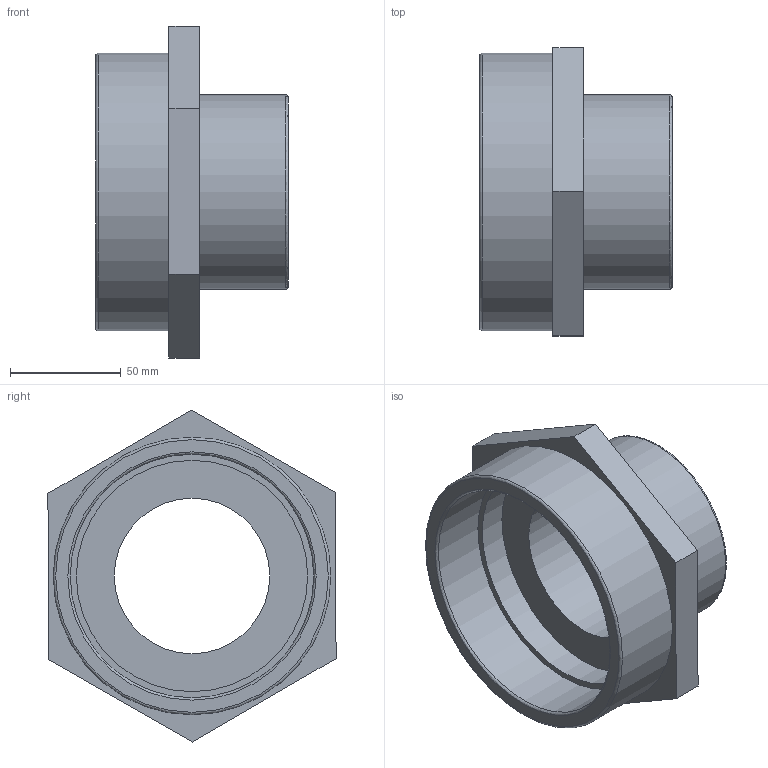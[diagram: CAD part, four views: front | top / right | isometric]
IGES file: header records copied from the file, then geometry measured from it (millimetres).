
Global section: file name: 052201030040.ipt; native system: Autodesk Inventor 2015; preprocessor: unknown; author: KIM; date: 20171207.165430; units: millimetre
Bounding box: 87 x 130.27 x 150.11 mm (x, y, z)
Volume: 309549.4 mm3; surface area: 75150.7 mm2
Topology: 1 solids, 1 shells, 21 faces, 55 edges, 40 vertices
Faces by surface type: plane 12, revolution 7, cylinder 2
Full cylindrical faces by diameter (mm): 87.884 x1, 125.482 x1
